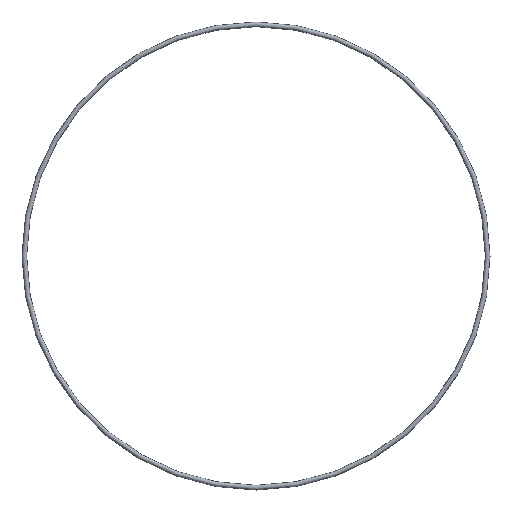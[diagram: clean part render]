
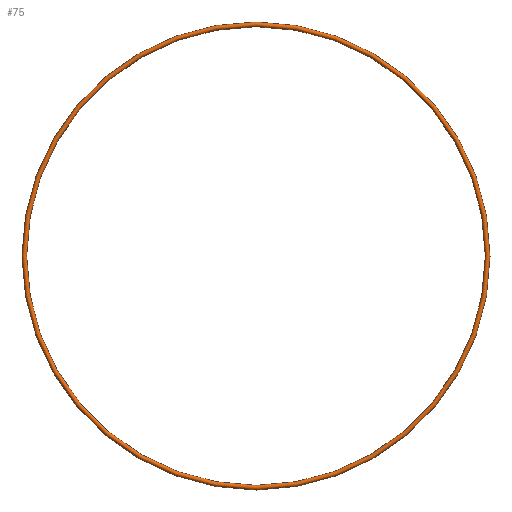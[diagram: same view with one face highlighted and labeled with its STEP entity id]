
A CAD part, front view. The second image highlights one B-rep face of the part: STEP entity #75.
In plain terms, the highlighted toroidal (fillet/blend) face has major radius 197 mm and minor radius 2 mm.
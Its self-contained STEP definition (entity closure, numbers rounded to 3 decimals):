
#75 = ADVANCED_FACE( '', ( #77 ), #78, .T. );
#77 = FACE_BOUND( '', #79, .T. );
#78 = TOROIDAL_SURFACE( '', #80, 197., 2. );
#79 = VERTEX_LOOP( '', #81 );
#80 = AXIS2_PLACEMENT_3D( '', #82, #83, #84 );
#81 = VERTEX_POINT( '', #85 );
#82 = CARTESIAN_POINT( '', ( 0., 0., 0. ) );
#83 = DIRECTION( '', ( 0., -1., 0. ) );
#84 = DIRECTION( '', ( 0., 0., -1. ) );
#85 = CARTESIAN_POINT( '', ( 0., 0., -199. ) );
